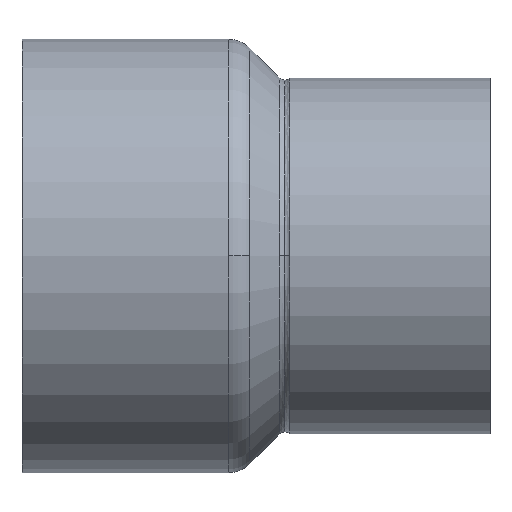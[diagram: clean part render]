
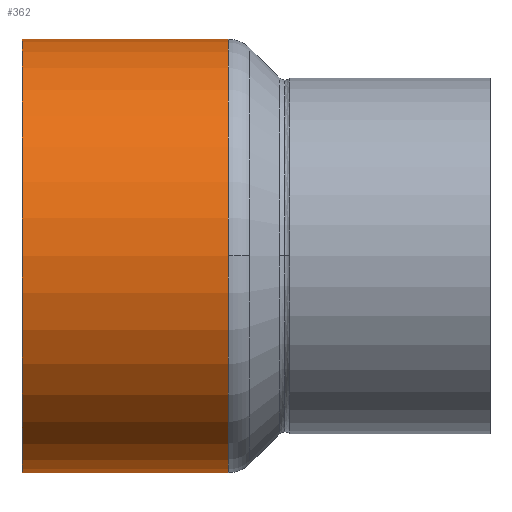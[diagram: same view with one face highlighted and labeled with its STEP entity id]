
A CAD part, top view. The second image highlights one B-rep face of the part: STEP entity #362.
In plain terms, the highlighted cylindrical face has radius 35.2 mm (diameter 70.4 mm), a partial arc.
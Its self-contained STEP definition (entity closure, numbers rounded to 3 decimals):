
#312=CARTESIAN_POINT('',(16.731,0.0,0.0));
#313=DIRECTION('',(1.0,0.0,0.0));
#314=DIRECTION('',(0.0,1.0,0.0));
#315=AXIS2_PLACEMENT_3D('',#312,#313,#314);
#316=CYLINDRICAL_SURFACE('',#315,35.2);
#317=CARTESIAN_POINT('',(0.,35.2,0.0));
#318=VERTEX_POINT('',#317);
#319=CARTESIAN_POINT('',(33.463,35.2,0.0));
#320=VERTEX_POINT('',#319);
#321=CARTESIAN_POINT('',(0.,35.2,0.0));
#322=DIRECTION('',(1.0,0.0,0.0));
#323=VECTOR('',#322,33.463);
#324=LINE('',#321,#323);
#325=EDGE_CURVE('',#318,#320,#324,.T.);
#326=ORIENTED_EDGE('',*,*,#325,.F.);
#327=CARTESIAN_POINT('',(0.,-35.2,0.));
#328=VERTEX_POINT('',#327);
#329=CARTESIAN_POINT('',(0.,0.0,0.0));
#330=DIRECTION('',(1.0,0.0,0.0));
#331=DIRECTION('',(0.0,1.0,0.0));
#332=AXIS2_PLACEMENT_3D('',#329,#330,#331);
#333=CIRCLE('',#332,35.2);
#334=EDGE_CURVE('',#318,#328,#333,.T.);
#335=ORIENTED_EDGE('',*,*,#334,.T.);
#336=CARTESIAN_POINT('',(33.463,-35.2,0.));
#337=VERTEX_POINT('',#336);
#338=CARTESIAN_POINT('',(33.463,-35.2,0.));
#339=DIRECTION('',(-1.0,0.0,0.0));
#340=VECTOR('',#339,33.463);
#341=LINE('',#338,#340);
#342=EDGE_CURVE('',#337,#328,#341,.T.);
#343=ORIENTED_EDGE('',*,*,#342,.F.);
#344=CARTESIAN_POINT('',(33.463,0.,35.2));
#345=VERTEX_POINT('',#344);
#346=CARTESIAN_POINT('',(33.463,0.0,0.0));
#347=DIRECTION('',(1.0,0.0,0.0));
#348=DIRECTION('',(0.0,1.0,0.0));
#349=AXIS2_PLACEMENT_3D('',#346,#347,#348);
#350=CIRCLE('',#349,35.2);
#351=EDGE_CURVE('',#345,#337,#350,.T.);
#352=ORIENTED_EDGE('',*,*,#351,.F.);
#353=CARTESIAN_POINT('',(33.463,0.0,0.0));
#354=DIRECTION('',(1.0,0.0,0.0));
#355=DIRECTION('',(0.0,1.0,0.0));
#356=AXIS2_PLACEMENT_3D('',#353,#354,#355);
#357=CIRCLE('',#356,35.2);
#358=EDGE_CURVE('',#320,#345,#357,.T.);
#359=ORIENTED_EDGE('',*,*,#358,.F.);
#360=EDGE_LOOP('',(#326,#335,#343,#352,#359));
#361=FACE_OUTER_BOUND('',#360,.T.);
#362=ADVANCED_FACE('',(#361),#316,.T.);
